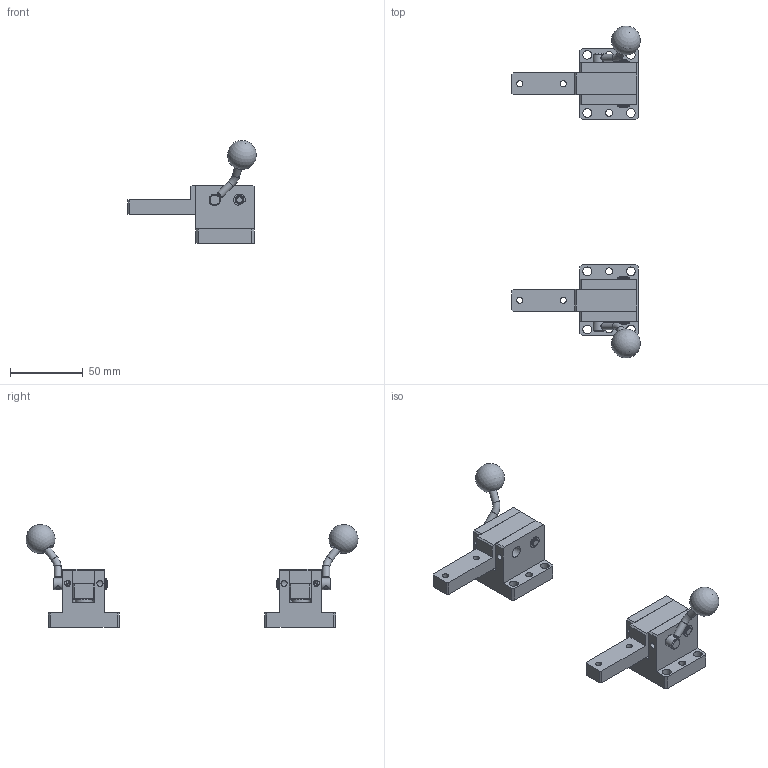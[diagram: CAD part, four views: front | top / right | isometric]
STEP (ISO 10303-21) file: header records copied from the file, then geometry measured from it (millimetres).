
FILE_DESCRIPTION(/* description */ (''),/* implementation_level */ '2;1');
FILE_NAME(/* name */ 'MS-J-WSFZ-A-40.stp',/* time_stamp */ '2018-05-25T09:18:40+08:00',/* author */ (''),/* organization */ (''),/* preprocessor_version */ 'ST-DEVELOPER v16',/* originating_system */ 'SIEMENS PLM Software NX 11.0',/* authorisation */ '');
FILE_SCHEMA (('AUTOMOTIVE_DESIGN { 1 0 10303 214 3 1 1 1 }'));
Length unit declared in the file: millimetre
Products named in the file (1): MS-J-WSFZ-A-40_stp
Bounding box: 88.53 x 228.51 x 70.86 mm (x, y, z)
Volume: 124553.9 mm3; surface area: 46462.3 mm2
Topology: 20 solids, 20 shells, 834 faces, 2210 edges, 1471 vertices
Faces by surface type: plane 458, extrusion 200, cylinder 132, cone 20, bspline 16, sphere 6, torus 2
Full cylindrical faces by diameter (mm): 2.4 x2, 3.267 x2, 3.333 x6, 3.5 x2, 4 x6, 4.2 x8, 4.8 x4, 5 x6, 5.333 x4, 6 x16, 6.667 x2, 8 x6, 10 x4, 12 x2
Entity records: 29566 total; most frequent: CARTESIAN_POINT 8522, ORIENTED_EDGE 4130, DIRECTION 3355, EDGE_CURVE 2065, VECTOR 1537, VERTEX_POINT 1430, LINE 1337, EDGE_LOOP 1061
